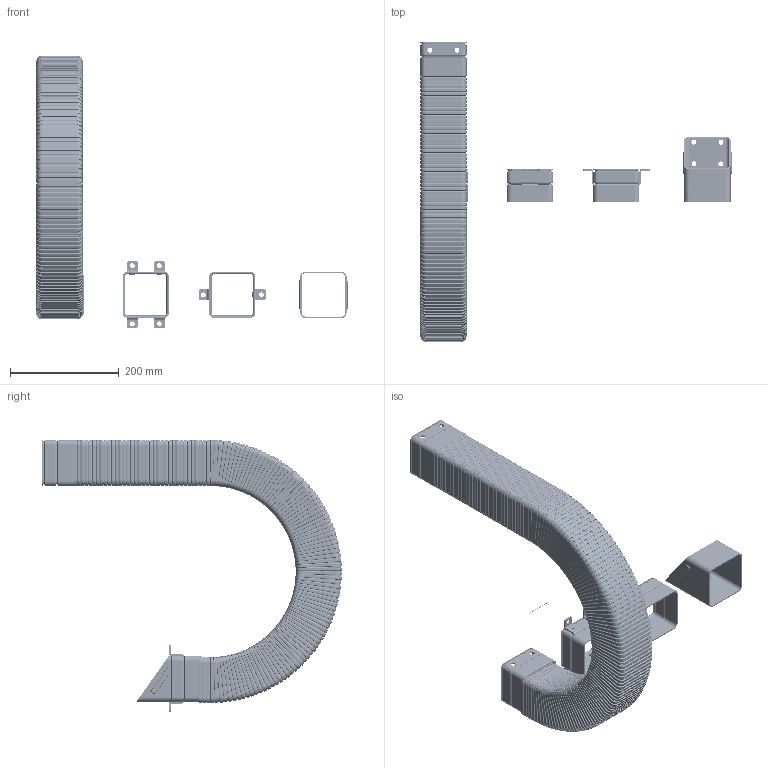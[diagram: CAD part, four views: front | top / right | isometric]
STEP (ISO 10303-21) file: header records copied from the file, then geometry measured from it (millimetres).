
FILE_DESCRIPTION((''),'2;1');
FILE_NAME('C:\Uebbing\PARAMETERKETTEN\SFK\SFK 22 S\SFK 22 S\SFK 22 S.stp','2012-04-12T11:29:06',('Uebbing'),(''),'Autodesk Inventor 10','Autodesk Inventor 10','');
FILE_SCHEMA(('AUTOMOTIVE_DESIGN { 1 0 10303 214 1 1 1 1 }'));
Length unit declared in the file: millimetre
Products named in the file (11): SFK 22 S STEP; Achse; SFK 22 S Normalanschluss; SFK 22 S Rippe; SFK 22 S Anschluss A; Anschlusswinkel; Imbusschraube M6x5 Senkkopf; Rändelmutter M6 flach; SFK 22 S Anschluss B; SFK 22 S Schrägflanschanschluss
Assembly tree (156 placements, depth 3):
  SFK 22 S STEP
    Achse
    SFK 22 S Normalanschluss  x2
    SFK 22 S Rippe  x130
    SFK 22 S Anschluss A
      SFK 22 S Normalanschluss
      Anschlusswinkel  x4
      Imbusschraube M6x5 Senkkopf  x4
      Rändelmutter M6 flach  x4
    SFK 22 S Anschluss B
      SFK 22 S Anschluss B
      Rändelmutter M6 flach  x2
      Imbusschraube M6x5 Senkkopf  x2
      Anschlusswinkel  x2
    SFK 22 S Schrägflanschanschluss
Bounding box: 572.99 x 551.87 x 501.63 mm (x, y, z)
Volume: 638470.5 mm3; surface area: 1339261.7 mm2
Topology: 154 solids, 154 shells, 15999 faces, 35352 edges, 19949 vertices
Faces by surface type: cylinder 7669, plane 3950, bspline 2184, torus 2172, cone 24
Full cylindrical faces by diameter (mm): 1 x1, 6 x14, 6.5 x6, 9 x22, 9.2 x6, 11 x6, 12 x6
Entity records: 18191 total; most frequent: CARTESIAN_POINT 5275, DIRECTION 2966, ORIENTED_EDGE 2268, AXIS2_PLACEMENT_3D 1216, EDGE_CURVE 1134, VERTEX_POINT 670, CIRCLE 592, EDGE_LOOP 592
